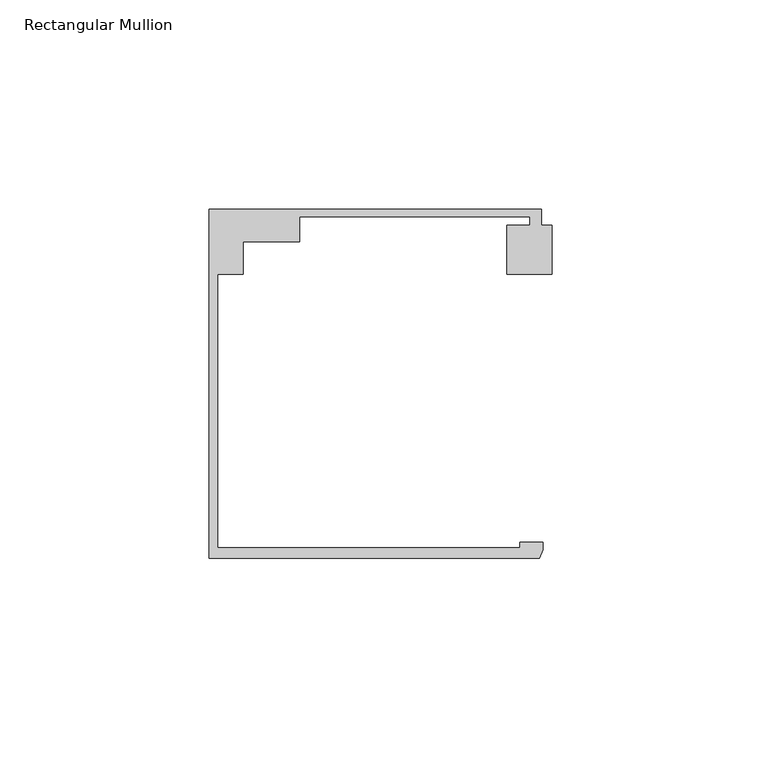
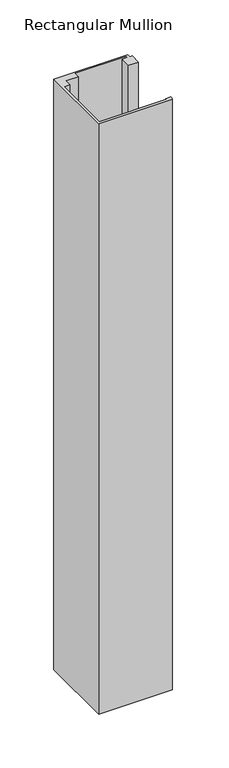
"""IFC4 building model written with IfcOpenShell, lengths in millimetres: member geometry, Rectangular Mullion : Danpal_Airpt_End-Mullion_B1."""

from ifc_helpers import new_model, si_unit, frame, origin, place, context, project, spatial, polyline, outline, extrude, source, transform, mapped, element, save


def rectangular_mullion_7e643ca8(model_context):
    return source(origin(), model_context, "Body", "SweptSolid", [
        extrude(outline(polyline([(24.3058808, -74.9940824), (24.3058808, -73.6940824), (29.8368746, -73.6940824), (29.8368746, -75.5472671), (28.9099149, -77.4940825), (-49.941586, -77.4940825), (-49.941586, 5.8051514), (29.4059014, 5.8051514), (29.4059014, 2.0051513), (31.9176464, 2.0051513), (31.9176464, -9.6875514), (21.2017673, -9.6875514), (21.2017673, 2.0051513), (26.7062306, 2.0051513), (26.7062306, 4.0051512), (-28.3937694, 4.0051512), (-28.3937694, -1.8818054), (-41.841586, -1.8818054), (-41.841586, -9.7188964), (-47.9415858, -9.7188964), (-47.9415858, -74.9940824), (24.3058808, -74.9940824)])), frame((0.0, 0.0, -669.8639164), z_axis=(0.0, 0.0, 1.0), x_axis=(1.0, 0.0, 0.0)), (0.0, 0.0, 1.0), 669.8639164),
    ])


if __name__ == "__main__":
    model = new_model("IFC4")
    model_context = context("Model", 3, world=origin())
    ifc_project = project(units=[si_unit("LENGTHUNIT", "METRE", prefix="MILLI")], contexts=[model_context])
    site = spatial("IfcSite", under=ifc_project)
    building = spatial("IfcBuilding", under=site)
    placement = place(None, origin())
    rectangular_mullion_shape = rectangular_mullion_7e643ca8(model_context)
    element("IfcMember", 1, ObjectType="Rectangular Mullion : Danpal_Airpt_End-Mullion_B1", at=placement, inside=building, context=model_context, shape_type="MappedRepresentation", body=[
        mapped(rectangular_mullion_shape, transform((0.0, 0.0, 0.0), x_axis=(1.0, 0.0, 0.0), y_axis=(0.0, 1.0, 0.0), z_axis=(0.0, 0.0, 1.0))),
    ])
    save(model, "model.ifc")
